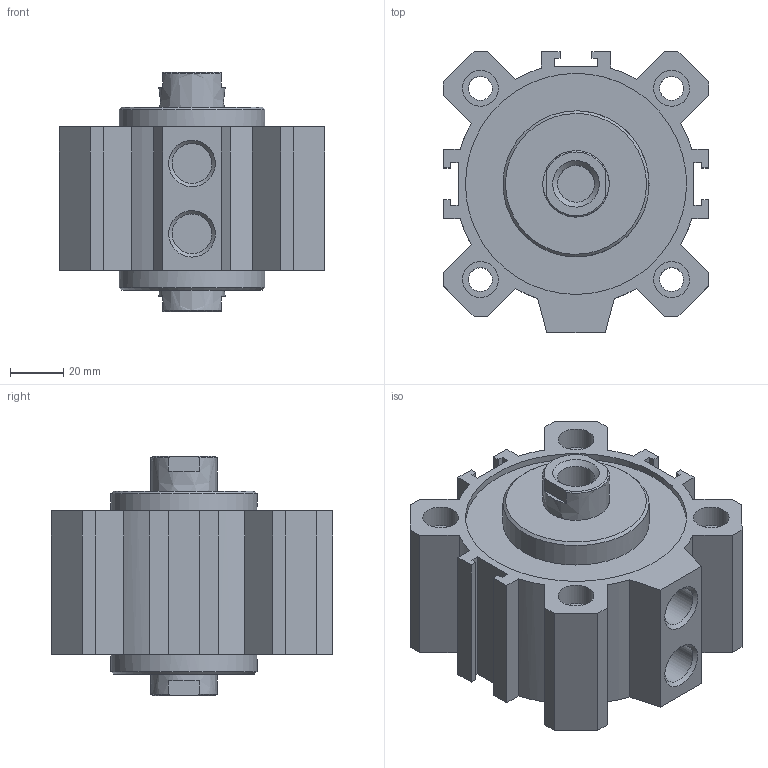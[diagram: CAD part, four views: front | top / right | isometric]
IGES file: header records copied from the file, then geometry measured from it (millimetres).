
Global section: file name: 1514_80_0005; native system: Autodesk Inventor 2014; preprocessor: unknown; author: A. Manieri; date: 20160824.142323; units: millimetre
Bounding box: 100 x 106 x 90 mm (x, y, z)
Volume: 438458.1 mm3; surface area: 96814.4 mm2
Topology: 2 solids, 2 shells, 132 faces, 346 edges, 238 vertices
Faces by surface type: bspline 132
